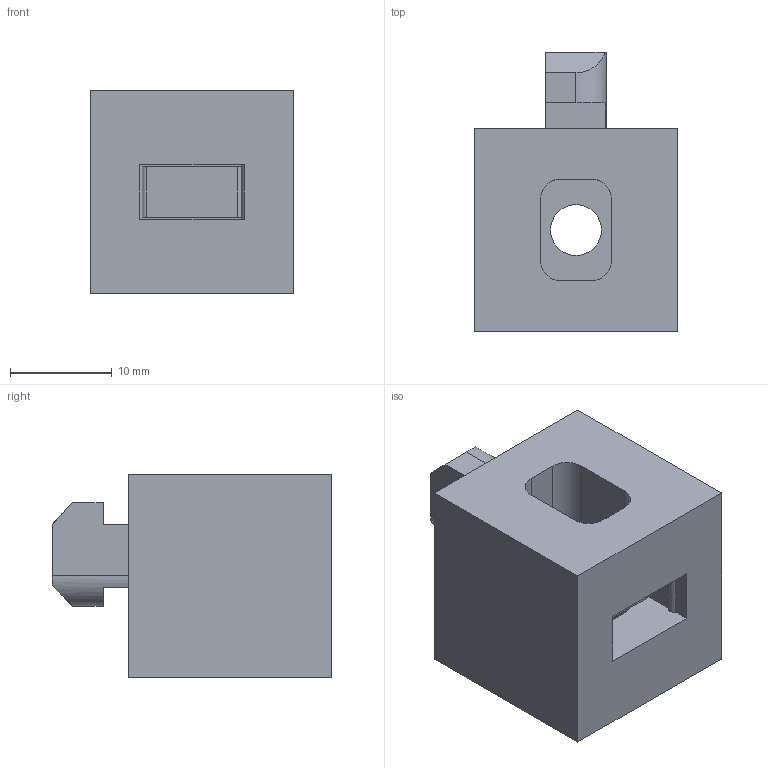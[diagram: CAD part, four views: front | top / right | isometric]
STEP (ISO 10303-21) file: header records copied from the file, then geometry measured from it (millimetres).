
FILE_DESCRIPTION (( 'STEP AP214' ), '1' );
FILE_NAME ('J3AP.step', '2017-05-24T07:45:24', ( 'admin' ), ( '' ), 'SwSTEP 2.0', 'SolidWorks 2014', '' );
FILE_SCHEMA (( 'AUTOMOTIVE_DESIGN' ));
Length unit declared in the file: millimetre
Products named in the file (3): J3N6; J3APH; J3AP
Assembly tree (2 placements, depth 2):
  J3AP
    J3APH
    J3N6
Bounding box: 20 x 27.5 x 20 mm (x, y, z)
Volume: 6844.8 mm3; surface area: 3781.7 mm2
Topology: 2 solids, 2 shells, 57 faces, 153 edges, 102 vertices
Faces by surface type: plane 38, cylinder 19
Entity records: 1931 total; most frequent: CARTESIAN_POINT 323, DIRECTION 315, ORIENTED_EDGE 306, EDGE_CURVE 153, VECTOR 111, LINE 111, VERTEX_POINT 102, AXIS2_PLACEMENT_3D 102
